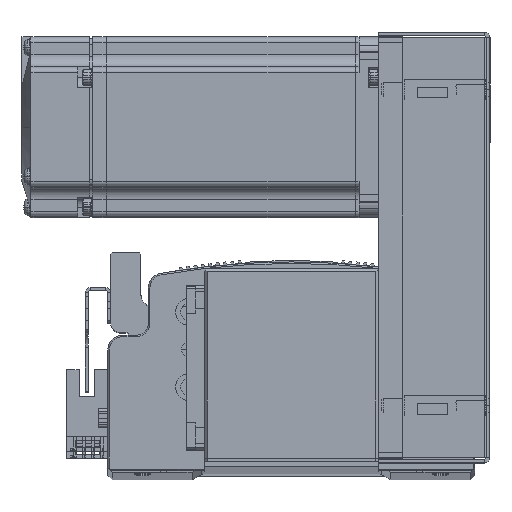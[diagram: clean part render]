
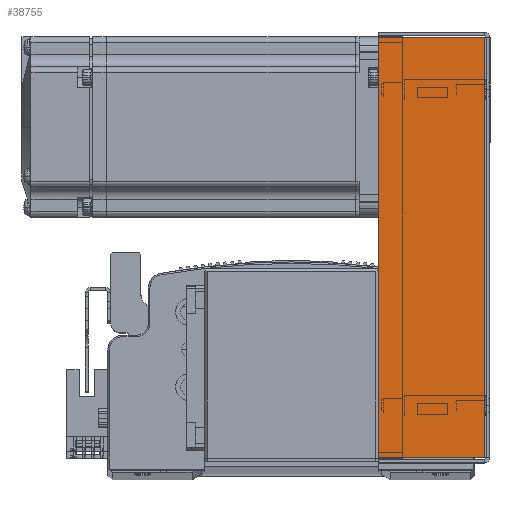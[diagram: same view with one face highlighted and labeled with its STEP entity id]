
A CAD part, top view. The second image highlights one B-rep face of the part: STEP entity #38755.
In plain terms, the highlighted planar face has unit normal (0, 0, 1) as drawn and (0, 0, -1) by its records, which use the part's own axes.
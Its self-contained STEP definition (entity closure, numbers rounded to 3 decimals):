
#6931 = EDGE_CURVE ( 'NONE', #17649, #17622, #53087, .T. ) ;
#6973 = EDGE_CURVE ( 'NONE', #17622, #17614, #53203, .T. ) ;
#6983 = EDGE_CURVE ( 'NONE', #17588, #17614, #53243, .T. ) ;
#6999 = EDGE_CURVE ( 'NONE', #17649, #17588, #53275, .T. ) ;
#8099 = CARTESIAN_POINT ( 'NONE',  ( -69.793, 0., -33.5 ) ) ;
#8104 = DIRECTION ( 'NONE',  ( 0., 1., 0. ) ) ;
#8175 = CARTESIAN_POINT ( 'NONE',  ( 0., 36., -33.5 ) ) ;
#8205 = DIRECTION ( 'NONE',  ( 1., 0., 0. ) ) ;
#8254 = CARTESIAN_POINT ( 'NONE',  ( 69.793, 0., -33.5 ) ) ;
#8257 = DIRECTION ( 'NONE',  ( 0., 1., 0. ) ) ;
#8381 = DIRECTION ( 'NONE',  ( 1., 0., 0. ) ) ;
#8400 = CARTESIAN_POINT ( 'NONE',  ( 71.5, 0.737, -33.5 ) ) ;
#12580 = EDGE_LOOP ( 'NONE', ( #82193, #82236, #82210, #82211 ) ) ;
#14615 = AXIS2_PLACEMENT_3D ( 'NONE', #48665, #48667, #48714 ) ;
#17588 = VERTEX_POINT ( 'NONE', #78890 ) ;
#17614 = VERTEX_POINT ( 'NONE', #78842 ) ;
#17622 = VERTEX_POINT ( 'NONE', #78856 ) ;
#17649 = VERTEX_POINT ( 'NONE', #78870 ) ;
#31007 = FACE_OUTER_BOUND ( 'NONE', #12580, .T. ) ;
#38755 = ADVANCED_FACE ( 'NONE', ( #31007 ), #48703, .F. ) ;
#48665 = CARTESIAN_POINT ( 'NONE',  ( 0., 0., -33.5 ) ) ;
#48667 = DIRECTION ( 'NONE',  ( 0., 0., 1. ) ) ;
#48703 = PLANE ( 'NONE',  #14615 ) ;
#48714 = DIRECTION ( 'NONE',  ( 0., -1., 0. ) ) ;
#53045 = VECTOR ( 'NONE', #8104, 1000. ) ;
#53087 = LINE ( 'NONE', #8099, #53045 ) ;
#53164 = VECTOR ( 'NONE', #8257, 1000. ) ;
#53185 = VECTOR ( 'NONE', #8205, 1000. ) ;
#53203 = LINE ( 'NONE', #8175, #53185 ) ;
#53243 = LINE ( 'NONE', #8254, #53164 ) ;
#53275 = LINE ( 'NONE', #8400, #53282 ) ;
#53282 = VECTOR ( 'NONE', #8381, 1000. ) ;
#78842 = CARTESIAN_POINT ( 'NONE',  ( 69.793, 36., -33.5 ) ) ;
#78856 = CARTESIAN_POINT ( 'NONE',  ( -69.793, 36., -33.5 ) ) ;
#78870 = CARTESIAN_POINT ( 'NONE',  ( -69.793, 0.737, -33.5 ) ) ;
#78890 = CARTESIAN_POINT ( 'NONE',  ( 69.793, 0.737, -33.5 ) ) ;
#82193 = ORIENTED_EDGE ( 'NONE', *, *, #6999, .F. ) ;
#82210 = ORIENTED_EDGE ( 'NONE', *, *, #6973, .T. ) ;
#82211 = ORIENTED_EDGE ( 'NONE', *, *, #6983, .F. ) ;
#82236 = ORIENTED_EDGE ( 'NONE', *, *, #6931, .T. ) ;
